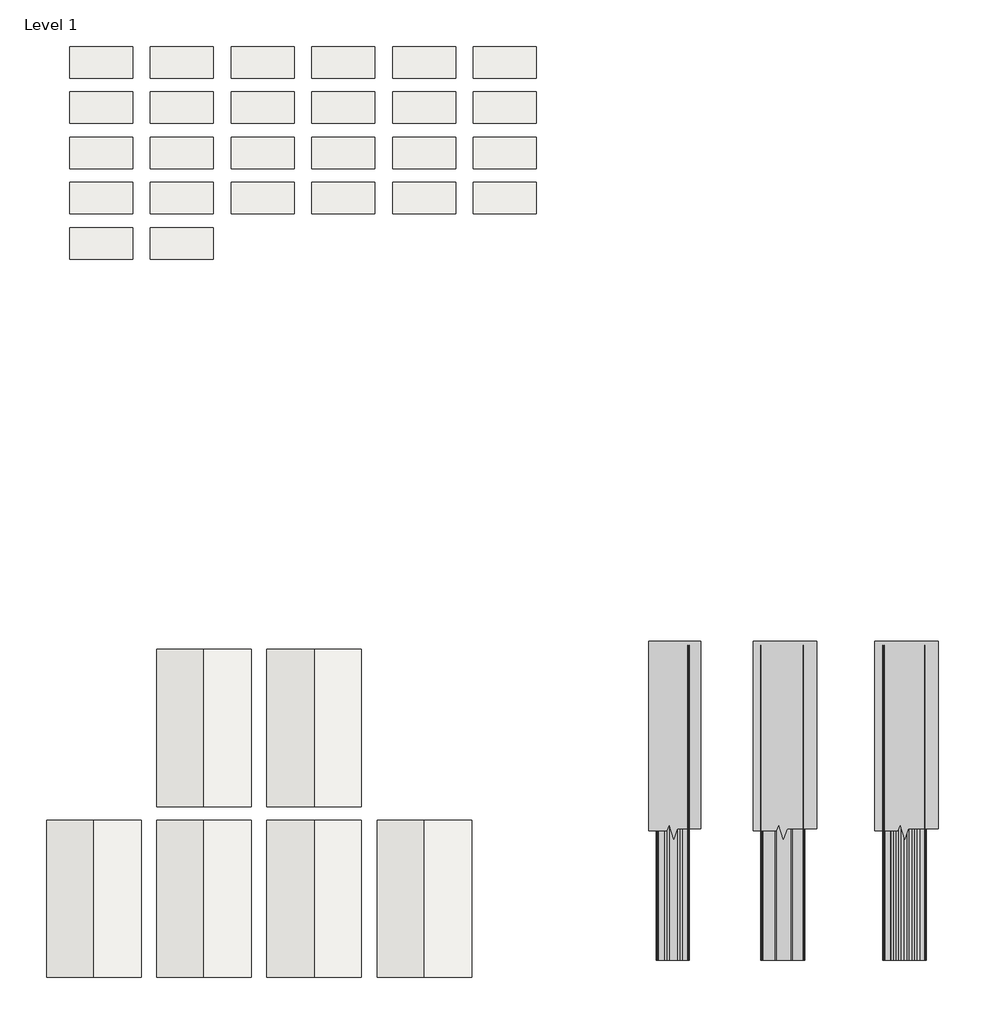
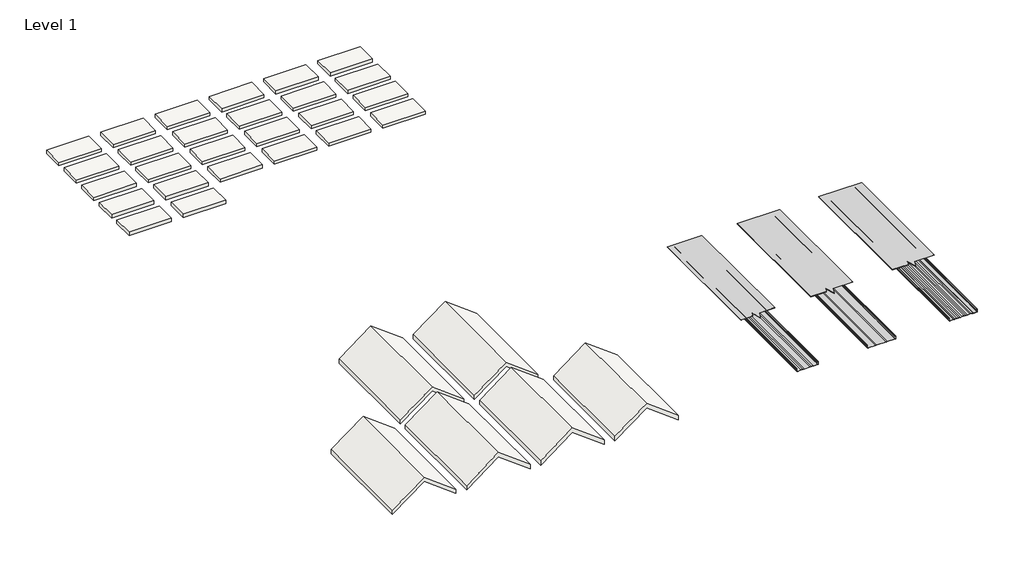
# One storey: 26 slabs, 6 proxies, 6 roofs.
"""IFC4 building model written with IfcOpenShell, lengths in millimetres."""

from ifc_helpers import new_model, si_unit, frame, origin, place, context, project, spatial, polyline, outline, extrude, transform, mapped, element, save
from components import generic_models_8f1d55d1, section_mask1_section_mask_337aa853, section_mask3_section_mask_b550a38f, proxy_3ed22cc2, proxy_93f6b263

model = new_model("IFC4")

# Units and contexts
model_context = context("Model", 3, world=origin())
ifc_project = project(units=[si_unit("LENGTHUNIT", "METRE", prefix="MILLI")], contexts=[model_context])

# Site, building, storey
site = spatial("IfcSite", under=ifc_project)
building = spatial("IfcBuilding", under=site)
storey = spatial("IfcBuildingStorey", under=building, Name="Level 1", Elevation=0.0)

# Proxies
placement = place(None, origin())
generic_models_shape = generic_models_8f1d55d1(model_context)
element("IfcBuildingElementProxy", 1, Name="Span-Seam_Striated_Panel_AEP_Span : 16\" Span-Lok hp Striated - 22ga", ObjectType="Span-Seam_Striated_Panel_AEP_Span : 16\" Span-Lok hp Striated - 22ga", at=placement, inside=storey, context=model_context, shape_type="MappedRepresentation", body=[
    mapped(generic_models_shape, transform((3141.8591909, 1705.5866508, 0.0), x_axis=(1.0, 0.0, 0.0), y_axis=(0.0, 1.0, 0.0), z_axis=(0.0, 0.0, 1.0))),
])
section_mask1_section_mask_shape = section_mask1_section_mask_337aa853(model_context)
element("IfcBuildingElementProxy", 2, Name="Section Mask1 : Section Mask", ObjectType="Section Mask1 : Section Mask", at=placement, inside=storey, context=model_context, shape_type="MappedRepresentation", body=[
    mapped(section_mask1_section_mask_shape, transform((-6231.363166, -761.6869452, 9.525), x_axis=(1.0, 0.0, 0.0), y_axis=(0.0, 1.0, 0.0), z_axis=(0.0, 0.0, 1.0))),
])
element("IfcBuildingElementProxy", 3, Name="Section Mask2 : Section Mask", ObjectType="Section Mask2 : Section Mask", at=placement, inside=storey, context=model_context, shape_type="MappedRepresentation", body=[
    mapped(section_mask1_section_mask_shape, transform((-5056.9286024, -761.6869452, 9.525), x_axis=(1.0, 0.0, 0.0), y_axis=(0.0, 1.0, 0.0), z_axis=(0.0, 0.0, 1.0))),
])
section_mask3_section_mask_shape = section_mask3_section_mask_b550a38f(model_context)
element("IfcBuildingElementProxy", 4, Name="Section Mask3 : Section Mask", ObjectType="Section Mask3 : Section Mask", at=placement, inside=storey, context=model_context, shape_type="MappedRepresentation", body=[
    mapped(section_mask3_section_mask_shape, transform((-7291.813166, -761.6869452, 9.525), x_axis=(1.0, 0.0, 0.0), y_axis=(0.0, 1.0, 0.0), z_axis=(0.0, 0.0, 1.0))),
])
proxy_shape = proxy_3ed22cc2(model_context)
element("IfcBuildingElementProxy", 5, Name="Span-Seam_Flat_Panel_AEP_Span : 12\" Curved Span-Lok hp Flat - 22ga", ObjectType="Span-Seam_Flat_Panel_AEP_Span : 12\" Curved Span-Lok hp Flat - 22ga", at=placement, inside=storey, context=model_context, shape_type="MappedRepresentation", body=[
    mapped(proxy_shape, transform((899.3956411, 1705.5866508, 0.0), x_axis=(1.0, 0.0, 0.0), y_axis=(0.0, 1.0, 0.0), z_axis=(0.0, 0.0, 1.0))),
])
proxy_2_shape = proxy_93f6b263(model_context)
element("IfcBuildingElementProxy", 6, Name="Span-Seam_Pencil-Ribs_Panel_AEP_Span : 16\" Span-Lok hp Pencil Ribs - 22ga", ObjectType="Span-Seam_Pencil-Ribs_Panel_AEP_Span : 16\" Span-Lok hp Pencil Ribs - 22ga", at=placement, inside=storey, context=model_context, shape_type="MappedRepresentation", body=[
    mapped(proxy_2_shape, transform((1964.4066666, 1705.5866508, 0.0), x_axis=(1.0, 0.0, 0.0), y_axis=(0.0, 1.0, 0.0), z_axis=(0.0, 0.0, 1.0))),
])

# Roofs
element("IfcRoof", 7, ObjectType="16\" SpanSeam Striated - 22ga", at=placement, inside=storey, context=model_context, shape_type="SweptSolid", body=[
    extrude(outline(polyline([(63.5, -2123.6750229), (406.4, -2580.8750229), (63.5, -3038.0750229), (0.0, -3038.0750229), (342.9, -2580.8750229), (0.0, -2123.6750229), (63.5, -2123.6750229)])), frame((0.0, -1510.2262262, 0.0), z_axis=(0.0, 1.0, 0.0), x_axis=(0.0, 0.0, 1.0)), (0.0, 0.0, 1.0), 1524.0),
])
element("IfcRoof", 8, ObjectType="16\" SpanSeam Striated - 24ga", at=placement, inside=storey, context=model_context, shape_type="SweptSolid", body=[
    extrude(outline(polyline([(63.5, -1056.8750229), (406.4, -1514.0750229), (63.5, -1971.2750229), (0.0, -1971.2750229), (342.9, -1514.0750229), (0.0, -1056.8750229), (63.5, -1056.8750229)])), frame((0.0, -1510.2262262, 0.0), z_axis=(0.0, 1.0, 0.0), x_axis=(0.0, 0.0, 1.0)), (0.0, 0.0, 1.0), 1524.0),
])
element("IfcRoof", 9, ObjectType="12\" SpanSeam - 22ga", at=placement, inside=storey, context=model_context, shape_type="SweptSolid", body=[
    extrude(outline(polyline([(63.5, -3190.4750229), (406.4, -3647.6750229), (63.5, -4104.8750229), (0.0, -4104.8750229), (342.9, -3647.6750229), (0.0, -3190.4750229), (63.5, -3190.4750229)])), frame((0.0, 140.5584683, 0.0), z_axis=(0.0, 1.0, 0.0), x_axis=(0.0, 0.0, 1.0)), (0.0, 0.0, 1.0), 1524.0),
])
element("IfcRoof", 10, ObjectType="12\" SpanSeam - 24ga", at=placement, inside=storey, context=model_context, shape_type="SweptSolid", body=[
    extrude(outline(polyline([(63.5, -2123.6750229), (406.4, -2580.8750229), (63.5, -3038.0750229), (0.0, -3038.0750229), (342.9, -2580.8750229), (0.0, -2123.6750229), (63.5, -2123.6750229)])), frame((0.0, 140.5584683, 0.0), z_axis=(0.0, 1.0, 0.0), x_axis=(0.0, 0.0, 1.0)), (0.0, 0.0, 1.0), 1524.0),
])
element("IfcRoof", 11, ObjectType="16\" SpanSeam Pencil Ribs - 22ga", at=placement, inside=storey, context=model_context, shape_type="SweptSolid", body=[
    extrude(outline(polyline([(63.5, -4257.2750229), (406.4, -4714.4750229), (63.5, -5171.6750229), (0.0, -5171.6750229), (342.9, -4714.4750229), (0.0, -4257.2750229), (63.5, -4257.2750229)])), frame((0.0, -1510.2262262, 0.0), z_axis=(0.0, 1.0, 0.0), x_axis=(0.0, 0.0, 1.0)), (0.0, 0.0, 1.0), 1524.0),
])
element("IfcRoof", 12, ObjectType="16\" SpanSeam Pencil Ribs - 24ga", at=placement, inside=storey, context=model_context, shape_type="SweptSolid", body=[
    extrude(outline(polyline([(63.5, -3190.4750229), (406.4, -3647.6750229), (63.5, -4104.8750229), (0.0, -4104.8750229), (342.9, -3647.6750229), (0.0, -3190.4750229), (63.5, -3190.4750229)])), frame((0.0, -1510.2262262, 0.0), z_axis=(0.0, 1.0, 0.0), x_axis=(0.0, 0.0, 1.0)), (0.0, 0.0, 1.0), 1524.0),
])

# Slabs
element("IfcSlab", 13, ObjectType="AEP Span Color Sample", at=placement, inside=storey, context=model_context, shape_type="SweptSolid", body=[
    extrude(outline(polyline([(-4336.915334, 7196.0746889), (-4946.515334, 7196.0746889), (-4946.515334, 7500.8746889), (-4336.915334, 7500.8746889), (-4336.915334, 7196.0746889)])), frame((0.0, 0.0, -50.8), z_axis=(0.0, 0.0, 1.0), x_axis=(1.0, 0.0, 0.0)), (0.0, 0.0, 1.0), 50.8),
])
element("IfcSlab", 14, ObjectType="AEP Span Color Sample", at=placement, inside=storey, context=model_context, shape_type="SweptSolid", body=[
    extrude(outline(polyline([(-3555.865334, 7196.0746889), (-4165.465334, 7196.0746889), (-4165.465334, 7500.8746889), (-3555.865334, 7500.8746889), (-3555.865334, 7196.0746889)])), frame((0.0, 0.0, -50.8), z_axis=(0.0, 0.0, 1.0), x_axis=(1.0, 0.0, 0.0)), (0.0, 0.0, 1.0), 50.8),
])
element("IfcSlab", 15, ObjectType="AEP Span Color Sample", at=placement, inside=storey, context=model_context, shape_type="SweptSolid", body=[
    extrude(outline(polyline([(-2774.815334, 7196.0746889), (-3384.415334, 7196.0746889), (-3384.415334, 7500.8746889), (-2774.815334, 7500.8746889), (-2774.815334, 7196.0746889)])), frame((0.0, 0.0, -50.8), z_axis=(0.0, 0.0, 1.0), x_axis=(1.0, 0.0, 0.0)), (0.0, 0.0, 1.0), 50.8),
])
element("IfcSlab", 16, ObjectType="AEP Span Color Sample", at=placement, inside=storey, context=model_context, shape_type="SweptSolid", body=[
    extrude(outline(polyline([(-1993.765334, 7196.0746889), (-2603.365334, 7196.0746889), (-2603.365334, 7500.8746889), (-1993.765334, 7500.8746889), (-1993.765334, 7196.0746889)])), frame((0.0, 0.0, -50.8), z_axis=(0.0, 0.0, 1.0), x_axis=(1.0, 0.0, 0.0)), (0.0, 0.0, 1.0), 50.8),
])
element("IfcSlab", 17, ObjectType="AEP Span Color Sample", at=placement, inside=storey, context=model_context, shape_type="SweptSolid", body=[
    extrude(outline(polyline([(-1212.715334, 7196.0746889), (-1822.315334, 7196.0746889), (-1822.315334, 7500.8746889), (-1212.715334, 7500.8746889), (-1212.715334, 7196.0746889)])), frame((0.0, 0.0, -50.8), z_axis=(0.0, 0.0, 1.0), x_axis=(1.0, 0.0, 0.0)), (0.0, 0.0, 1.0), 50.8),
])
element("IfcSlab", 18, ObjectType="AEP Span Color Sample", at=placement, inside=storey, context=model_context, shape_type="SweptSolid", body=[
    extrude(outline(polyline([(-431.665334, 7196.0746889), (-1041.265334, 7196.0746889), (-1041.265334, 7500.8746889), (-431.665334, 7500.8746889), (-431.665334, 7196.0746889)])), frame((0.0, 0.0, -50.8), z_axis=(0.0, 0.0, 1.0), x_axis=(1.0, 0.0, 0.0)), (0.0, 0.0, 1.0), 50.8),
])
element("IfcSlab", 19, ObjectType="AEP Span Color Sample", at=placement, inside=storey, context=model_context, shape_type="SweptSolid", body=[
    extrude(outline(polyline([(-4336.915334, 6757.9246889), (-4946.515334, 6757.9246889), (-4946.515334, 7062.7246889), (-4336.915334, 7062.7246889), (-4336.915334, 6757.9246889)])), frame((0.0, 0.0, -50.8), z_axis=(0.0, 0.0, 1.0), x_axis=(1.0, 0.0, 0.0)), (0.0, 0.0, 1.0), 50.8),
])
element("IfcSlab", 20, ObjectType="AEP Span Color Sample", at=placement, inside=storey, context=model_context, shape_type="SweptSolid", body=[
    extrude(outline(polyline([(-3555.865334, 6757.9246889), (-4165.465334, 6757.9246889), (-4165.465334, 7062.7246889), (-3555.865334, 7062.7246889), (-3555.865334, 6757.9246889)])), frame((0.0, 0.0, -50.8), z_axis=(0.0, 0.0, 1.0), x_axis=(1.0, 0.0, 0.0)), (0.0, 0.0, 1.0), 50.8),
])
element("IfcSlab", 21, ObjectType="AEP Span Color Sample", at=placement, inside=storey, context=model_context, shape_type="SweptSolid", body=[
    extrude(outline(polyline([(-2774.815334, 6757.9246889), (-3384.415334, 6757.9246889), (-3384.415334, 7062.7246889), (-2774.815334, 7062.7246889), (-2774.815334, 6757.9246889)])), frame((0.0, 0.0, -50.8), z_axis=(0.0, 0.0, 1.0), x_axis=(1.0, 0.0, 0.0)), (0.0, 0.0, 1.0), 50.8),
])
element("IfcSlab", 22, ObjectType="AEP Span Color Sample", at=placement, inside=storey, context=model_context, shape_type="SweptSolid", body=[
    extrude(outline(polyline([(-1993.765334, 6757.9246889), (-2603.365334, 6757.9246889), (-2603.365334, 7062.7246889), (-1993.765334, 7062.7246889), (-1993.765334, 6757.9246889)])), frame((0.0, 0.0, -50.8), z_axis=(0.0, 0.0, 1.0), x_axis=(1.0, 0.0, 0.0)), (0.0, 0.0, 1.0), 50.8),
])
element("IfcSlab", 23, ObjectType="AEP Span Color Sample", at=placement, inside=storey, context=model_context, shape_type="SweptSolid", body=[
    extrude(outline(polyline([(-1212.715334, 6757.9246889), (-1822.315334, 6757.9246889), (-1822.315334, 7062.7246889), (-1212.715334, 7062.7246889), (-1212.715334, 6757.9246889)])), frame((0.0, 0.0, -50.8), z_axis=(0.0, 0.0, 1.0), x_axis=(1.0, 0.0, 0.0)), (0.0, 0.0, 1.0), 50.8),
])
element("IfcSlab", 24, ObjectType="AEP Span Color Sample", at=placement, inside=storey, context=model_context, shape_type="SweptSolid", body=[
    extrude(outline(polyline([(-431.665334, 6757.9246889), (-1041.265334, 6757.9246889), (-1041.265334, 7062.7246889), (-431.665334, 7062.7246889), (-431.665334, 6757.9246889)])), frame((0.0, 0.0, -50.8), z_axis=(0.0, 0.0, 1.0), x_axis=(1.0, 0.0, 0.0)), (0.0, 0.0, 1.0), 50.8),
])
element("IfcSlab", 25, ObjectType="AEP Span Color Sample", at=placement, inside=storey, context=model_context, shape_type="SweptSolid", body=[
    extrude(outline(polyline([(-4336.915334, 6319.7746889), (-4946.515334, 6319.7746889), (-4946.515334, 6624.5746889), (-4336.915334, 6624.5746889), (-4336.915334, 6319.7746889)])), frame((0.0, 0.0, -50.8), z_axis=(0.0, 0.0, 1.0), x_axis=(1.0, 0.0, 0.0)), (0.0, 0.0, 1.0), 50.8),
])
element("IfcSlab", 26, ObjectType="AEP Span Color Sample", at=placement, inside=storey, context=model_context, shape_type="SweptSolid", body=[
    extrude(outline(polyline([(-3555.865334, 6319.7746889), (-4165.465334, 6319.7746889), (-4165.465334, 6624.5746889), (-3555.865334, 6624.5746889), (-3555.865334, 6319.7746889)])), frame((0.0, 0.0, -50.8), z_axis=(0.0, 0.0, 1.0), x_axis=(1.0, 0.0, 0.0)), (0.0, 0.0, 1.0), 50.8),
])
element("IfcSlab", 27, ObjectType="AEP Span Color Sample", at=placement, inside=storey, context=model_context, shape_type="SweptSolid", body=[
    extrude(outline(polyline([(-2774.815334, 6319.7746889), (-3384.415334, 6319.7746889), (-3384.415334, 6624.5746889), (-2774.815334, 6624.5746889), (-2774.815334, 6319.7746889)])), frame((0.0, 0.0, -50.8), z_axis=(0.0, 0.0, 1.0), x_axis=(1.0, 0.0, 0.0)), (0.0, 0.0, 1.0), 50.8),
])
element("IfcSlab", 28, ObjectType="AEP Span Color Sample", at=placement, inside=storey, context=model_context, shape_type="SweptSolid", body=[
    extrude(outline(polyline([(-1993.765334, 6319.7746889), (-2603.365334, 6319.7746889), (-2603.365334, 6624.5746889), (-1993.765334, 6624.5746889), (-1993.765334, 6319.7746889)])), frame((0.0, 0.0, -50.8), z_axis=(0.0, 0.0, 1.0), x_axis=(1.0, 0.0, 0.0)), (0.0, 0.0, 1.0), 50.8),
])
element("IfcSlab", 29, ObjectType="AEP Span Color Sample", at=placement, inside=storey, context=model_context, shape_type="SweptSolid", body=[
    extrude(outline(polyline([(-1212.715334, 6319.7746889), (-1822.315334, 6319.7746889), (-1822.315334, 6624.5746889), (-1212.715334, 6624.5746889), (-1212.715334, 6319.7746889)])), frame((0.0, 0.0, -50.8), z_axis=(0.0, 0.0, 1.0), x_axis=(1.0, 0.0, 0.0)), (0.0, 0.0, 1.0), 50.8),
])
element("IfcSlab", 30, ObjectType="AEP Span Color Sample", at=placement, inside=storey, context=model_context, shape_type="SweptSolid", body=[
    extrude(outline(polyline([(-431.665334, 6319.7746889), (-1041.265334, 6319.7746889), (-1041.265334, 6624.5746889), (-431.665334, 6624.5746889), (-431.665334, 6319.7746889)])), frame((0.0, 0.0, -50.8), z_axis=(0.0, 0.0, 1.0), x_axis=(1.0, 0.0, 0.0)), (0.0, 0.0, 1.0), 50.8),
])
element("IfcSlab", 31, ObjectType="AEP Span Color Sample", at=placement, inside=storey, context=model_context, shape_type="SweptSolid", body=[
    extrude(outline(polyline([(-4336.915334, 5881.6246889), (-4946.515334, 5881.6246889), (-4946.515334, 6186.4246889), (-4336.915334, 6186.4246889), (-4336.915334, 5881.6246889)])), frame((0.0, 0.0, -50.8), z_axis=(0.0, 0.0, 1.0), x_axis=(1.0, 0.0, 0.0)), (0.0, 0.0, 1.0), 50.8),
])
element("IfcSlab", 32, ObjectType="AEP Span Color Sample", at=placement, inside=storey, context=model_context, shape_type="SweptSolid", body=[
    extrude(outline(polyline([(-3555.865334, 5881.6246889), (-4165.465334, 5881.6246889), (-4165.465334, 6186.4246889), (-3555.865334, 6186.4246889), (-3555.865334, 5881.6246889)])), frame((0.0, 0.0, -50.8), z_axis=(0.0, 0.0, 1.0), x_axis=(1.0, 0.0, 0.0)), (0.0, 0.0, 1.0), 50.8),
])
element("IfcSlab", 33, ObjectType="AEP Span Color Sample", at=placement, inside=storey, context=model_context, shape_type="SweptSolid", body=[
    extrude(outline(polyline([(-2774.815334, 5881.6246889), (-3384.415334, 5881.6246889), (-3384.415334, 6186.4246889), (-2774.815334, 6186.4246889), (-2774.815334, 5881.6246889)])), frame((0.0, 0.0, -50.8), z_axis=(0.0, 0.0, 1.0), x_axis=(1.0, 0.0, 0.0)), (0.0, 0.0, 1.0), 50.8),
])
element("IfcSlab", 34, ObjectType="AEP Span Color Sample", at=placement, inside=storey, context=model_context, shape_type="SweptSolid", body=[
    extrude(outline(polyline([(-1993.765334, 5881.6246889), (-2603.365334, 5881.6246889), (-2603.365334, 6186.4246889), (-1993.765334, 6186.4246889), (-1993.765334, 5881.6246889)])), frame((0.0, 0.0, -50.8), z_axis=(0.0, 0.0, 1.0), x_axis=(1.0, 0.0, 0.0)), (0.0, 0.0, 1.0), 50.8),
])
element("IfcSlab", 35, ObjectType="AEP Span Color Sample", at=placement, inside=storey, context=model_context, shape_type="SweptSolid", body=[
    extrude(outline(polyline([(-1212.715334, 5881.6246889), (-1822.315334, 5881.6246889), (-1822.315334, 6186.4246889), (-1212.715334, 6186.4246889), (-1212.715334, 5881.6246889)])), frame((0.0, 0.0, -50.8), z_axis=(0.0, 0.0, 1.0), x_axis=(1.0, 0.0, 0.0)), (0.0, 0.0, 1.0), 50.8),
])
element("IfcSlab", 36, ObjectType="AEP Span Color Sample", at=placement, inside=storey, context=model_context, shape_type="SweptSolid", body=[
    extrude(outline(polyline([(-431.665334, 5881.6246889), (-1041.265334, 5881.6246889), (-1041.265334, 6186.4246889), (-431.665334, 6186.4246889), (-431.665334, 5881.6246889)])), frame((0.0, 0.0, -50.8), z_axis=(0.0, 0.0, 1.0), x_axis=(1.0, 0.0, 0.0)), (0.0, 0.0, 1.0), 50.8),
])
element("IfcSlab", 37, ObjectType="AEP Span Color Sample", at=placement, inside=storey, context=model_context, shape_type="SweptSolid", body=[
    extrude(outline(polyline([(-4336.915334, 5443.4746889), (-4946.515334, 5443.4746889), (-4946.515334, 5748.2746889), (-4336.915334, 5748.2746889), (-4336.915334, 5443.4746889)])), frame((0.0, 0.0, -50.8), z_axis=(0.0, 0.0, 1.0), x_axis=(1.0, 0.0, 0.0)), (0.0, 0.0, 1.0), 50.8),
])
element("IfcSlab", 38, ObjectType="AEP Span Color Sample", at=placement, inside=storey, context=model_context, shape_type="SweptSolid", body=[
    extrude(outline(polyline([(-3555.865334, 5443.4746889), (-4165.465334, 5443.4746889), (-4165.465334, 5748.2746889), (-3555.865334, 5748.2746889), (-3555.865334, 5443.4746889)])), frame((0.0, 0.0, -50.8), z_axis=(0.0, 0.0, 1.0), x_axis=(1.0, 0.0, 0.0)), (0.0, 0.0, 1.0), 50.8),
])

save(model, "model.ifc")
